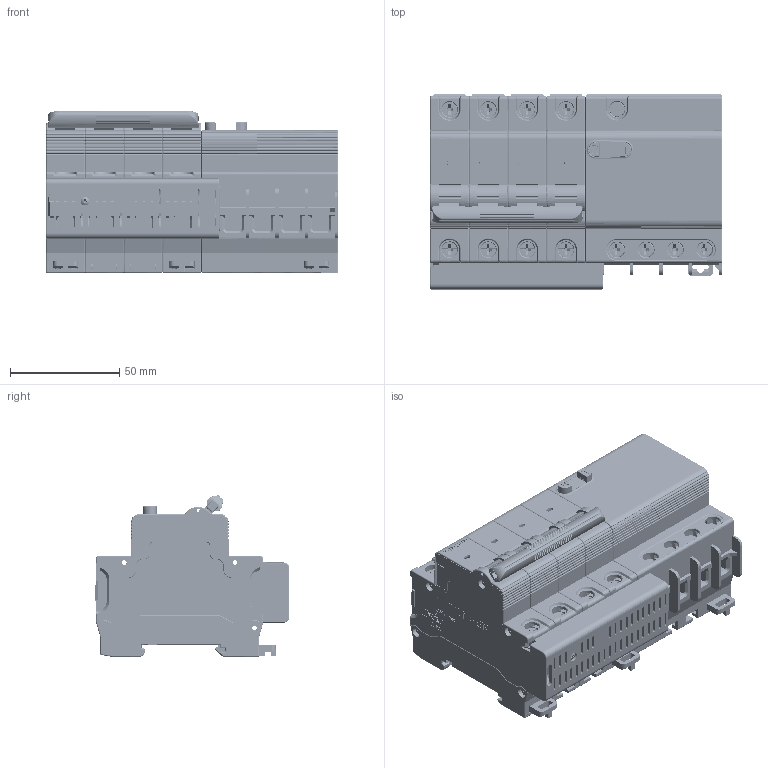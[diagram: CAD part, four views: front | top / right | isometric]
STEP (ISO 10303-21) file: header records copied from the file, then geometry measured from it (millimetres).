
FILE_DESCRIPTION (( 'STEP AP214' ), '1' );
FILE_NAME ('TGB1NLE-63 4P.STEP', '2025-12-29T10:53:06', ( '' ), ( '' ), 'SwSTEP 2.0', 'SolidWorks 2024', '' );
FILE_SCHEMA (( 'AUTOMOTIVE_DESIGN' ));
Length unit declared in the file: millimetre
Products named in the file (10): 2TZD_259_1182_ASM_SW0001_3.stp; 2TZD_259_1182_ASM_SW0001_7.stp; 2TZD_259_1182_ASM_SW0001_4.stp; TGB1NLE-63 4P; TGB1NLE-63 4P.stp; 2TZD_259_1182_ASM_SW0001_6.stp; 2TZD_259_1182_ASM_SW0001_8.stp; 2TZD_259_1182_ASM_SW0001_5.stp; 2TZD_259_1182_ASM_SW0001_2.stp; 2TZD_259_1182_ASM_SW0001_1.stp
Assembly tree (9 placements, depth 3):
  TGB1NLE-63 4P
    TGB1NLE-63 4P.stp
      2TZD_259_1182_ASM_SW0001_1.stp
      2TZD_259_1182_ASM_SW0001_2.stp
      2TZD_259_1182_ASM_SW0001_3.stp
      2TZD_259_1182_ASM_SW0001_4.stp
      2TZD_259_1182_ASM_SW0001_5.stp
      2TZD_259_1182_ASM_SW0001_6.stp
      2TZD_259_1182_ASM_SW0001_7.stp
      2TZD_259_1182_ASM_SW0001_8.stp
Bounding box: 134 x 89.4 x 74.22 mm (x, y, z)
Volume: 606420.7 mm3; surface area: 282988.5 mm2
Topology: 8 solids, 8 shells, 18474 faces, 50986 edges, 32651 vertices
Faces by surface type: plane 11616, cylinder 4259, torus 985, bspline 803, cone 658, sphere 153
Entity records: 669261 total; most frequent: CARTESIAN_POINT 241650, ORIENTED_EDGE 101496, DIRECTION 70722, EDGE_CURVE 50748, VERTEX_POINT 32621, AXIS2_PLACEMENT_3D 24528, B_SPLINE_CURVE_WITH_KNOTS 21975, VECTOR 21666
